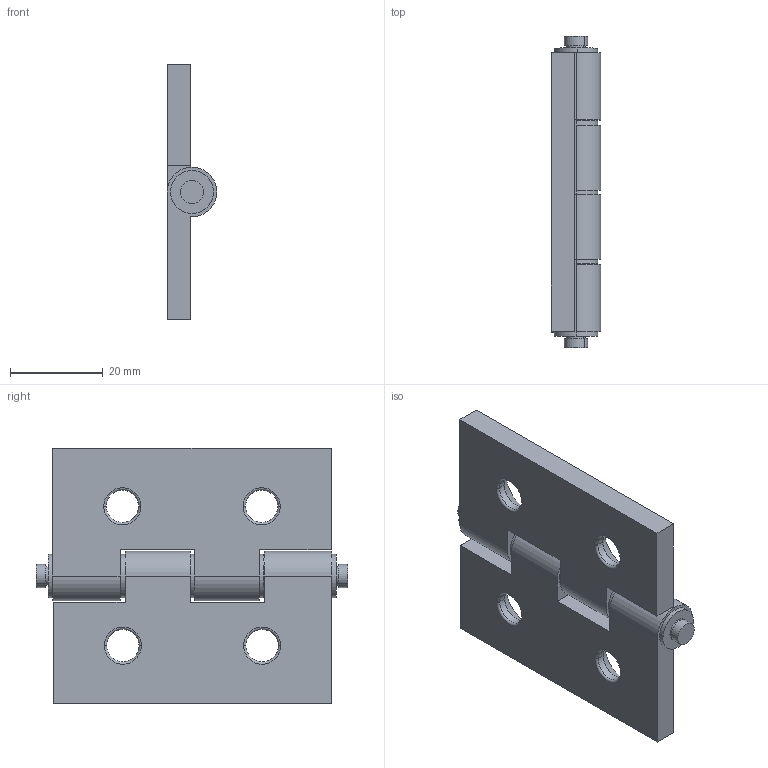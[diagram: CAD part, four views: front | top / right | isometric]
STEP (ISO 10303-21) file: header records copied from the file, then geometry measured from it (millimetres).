
FILE_DESCRIPTION (( 'STEP AP203' ), '1' );
FILE_NAME ('HD30.STEP', '2024-02-19T12:20:42', ( '' ), ( '' ), 'SwSTEP 2.0', 'SolidWorks 2022', '' );
FILE_SCHEMA (( 'CONFIG_CONTROL_DESIGN' ));
Length unit declared in the file: millimetre
Products named in the file (1): HD30
Bounding box: 10.7 x 67 x 55 mm (x, y, z)
Volume: 17911.7 mm3; surface area: 11750.2 mm2
Topology: 8 solids, 8 shells, 110 faces, 254 edges, 164 vertices
Faces by surface type: cylinder 58, plane 36, torus 8, cone 8
Entity records: 3285 total; most frequent: DIRECTION 616, CARTESIAN_POINT 529, ORIENTED_EDGE 508, EDGE_CURVE 254, AXIS2_PLACEMENT_3D 251, VERTEX_POINT 164, CIRCLE 140, EDGE_LOOP 140
